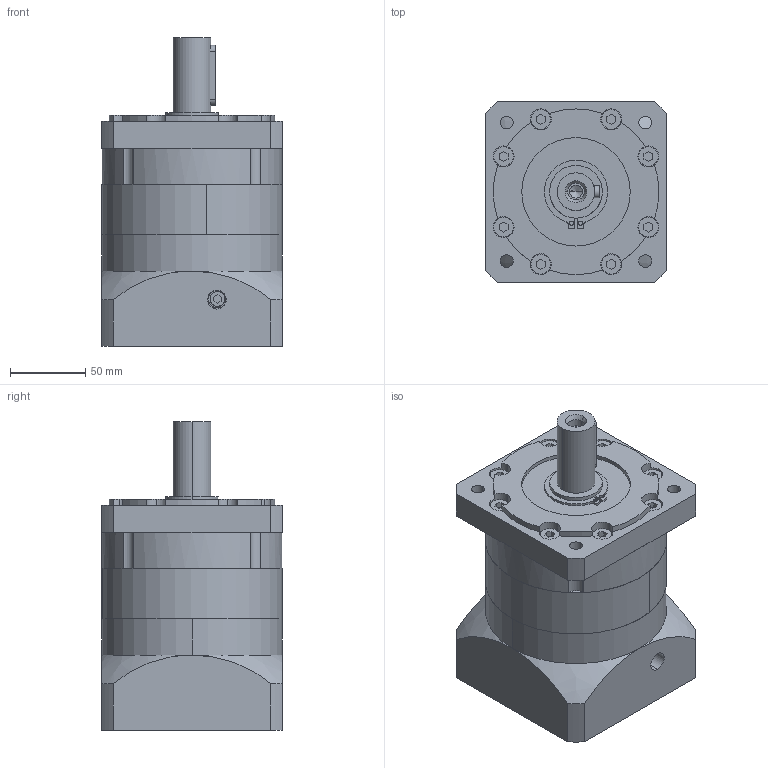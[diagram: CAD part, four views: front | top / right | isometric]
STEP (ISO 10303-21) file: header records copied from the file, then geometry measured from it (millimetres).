
FILE_DESCRIPTION (( 'STEP AP214' ), '1' );
FILE_NAME ('PRF120-L1 目录1.STEP', '2020-09-10T08:12:33', ( '微软用户' ), ( '微软中国' ), 'SwSTEP 2.0', 'SolidWorks 2014', '' );
FILE_SCHEMA (( 'AUTOMOTIVE_DESIGN' ));
Length unit declared in the file: millimetre
Products named in the file (15): PLF120 狟屳唳; 囀鞠褒蹟佪 M6x20; PLF120 奻屳唳; PLF120 κｳﾝﾈｦ_ﾒｻｼｶﾄﾚｳﾝﾈｦ; 邧埴瑩 8x7x40; PRF120-L1 Ŀ¼1; 粣創-6007 40x68x15; PLF120 蟀諉啣-準梓-芞醱
Assembly tree (7 placements, depth 2):
  PLF120 奻屳唳
  邧埴瑩 8x7x40
  PRF120-L1 Ŀ¼1
    囀鞠褒蹟佪 M6x20
    PLF120 蟀諉啣-準梓-芞醱
    PLF120 κｳﾝﾈｦ_ﾒｻｼｶﾄﾚｳﾝﾈｦ
    PLF120 奻屳唳
    PLF120 狟屳唳
    邧埴瑩 8x7x40
    粣創-6007 40x68x15
  PLF120 狟屳唳
  粣創-6007 40x68x15
Bounding box: 120 x 120 x 205 mm (x, y, z)
Volume: 1697622.2 mm3; surface area: 234293.4 mm2
Topology: 7 solids, 15 shells, 559 faces, 1490 edges, 973 vertices
Faces by surface type: plane 199, cylinder 198, bspline 148, cone 14
Entity records: 29366 total; most frequent: CARTESIAN_POINT 9574, ORIENTED_EDGE 2960, DIRECTION 2550, EDGE_CURVE 1480, AXIS2_PLACEMENT_3D 1039, VERTEX_POINT 973, EDGE_LOOP 657, CIRCLE 617
